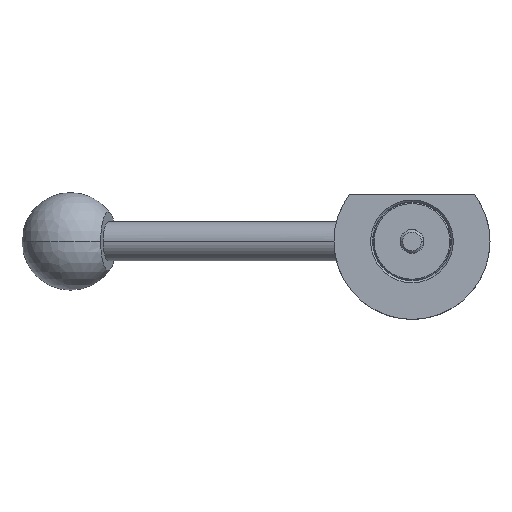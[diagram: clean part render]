
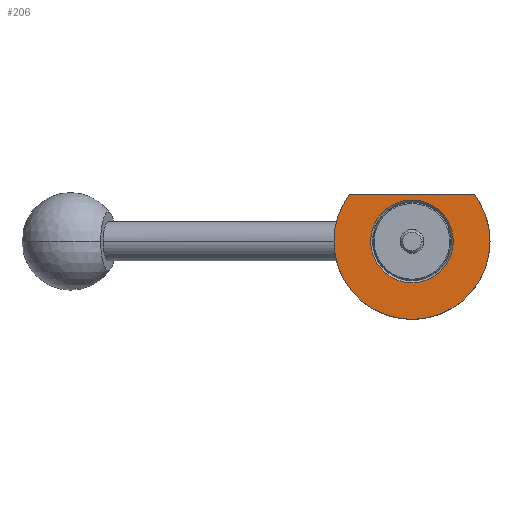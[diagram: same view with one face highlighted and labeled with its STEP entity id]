
A CAD part, front view. The second image highlights one B-rep face of the part: STEP entity #206.
In plain terms, the highlighted planar face has unit normal (0, -1, 0).
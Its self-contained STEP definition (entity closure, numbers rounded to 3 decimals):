
#59 = CARTESIAN_POINT ( 'NONE',  ( 16.001, -10., 11.999 ) ) ;
#67 = CARTESIAN_POINT ( 'NONE',  ( 0., -10., 0. ) ) ;
#111 = EDGE_CURVE ( 'NONE', #961, #461, #1121, .T. ) ;
#130 = FACE_OUTER_BOUND ( 'NONE', #767, .T. ) ;
#204 = DIRECTION ( 'NONE',  ( -1., 0., 0. ) ) ;
#206 = ADVANCED_FACE ( 'NONE', ( #1710, #130 ), #1209, .T. ) ;
#292 = VERTEX_POINT ( 'NONE', #1932 ) ;
#296 = VERTEX_POINT ( 'NONE', #339 ) ;
#339 = CARTESIAN_POINT ( 'NONE',  ( -20., -10., 0. ) ) ;
#344 = DIRECTION ( 'NONE',  ( -1., 0., 0. ) ) ;
#345 = CIRCLE ( 'NONE', #1715, 20. ) ;
#399 = ORIENTED_EDGE ( 'NONE', *, *, #1250, .F. ) ;
#403 = CARTESIAN_POINT ( 'NONE',  ( 0., -10., 0. ) ) ;
#422 = ORIENTED_EDGE ( 'NONE', *, *, #111, .F. ) ;
#461 = VERTEX_POINT ( 'NONE', #1326 ) ;
#505 = DIRECTION ( 'NONE',  ( 0., 1., 0. ) ) ;
#520 = DIRECTION ( 'NONE',  ( 0., 1., 0. ) ) ;
#564 = DIRECTION ( 'NONE',  ( -1., 0., 0. ) ) ;
#572 = CIRCLE ( 'NONE', #674, 10.6 ) ;
#674 = AXIS2_PLACEMENT_3D ( 'NONE', #1042, #505, #810 ) ;
#738 = EDGE_LOOP ( 'NONE', ( #2047, #1362 ) ) ;
#743 = AXIS2_PLACEMENT_3D ( 'NONE', #875, #2034, #1046 ) ;
#756 = DIRECTION ( 'NONE',  ( 0., -1., 0. ) ) ;
#767 = EDGE_LOOP ( 'NONE', ( #422, #855, #1941, #399 ) ) ;
#810 = DIRECTION ( 'NONE',  ( -1., 0., 0. ) ) ;
#822 = LINE ( 'NONE', #1369, #1716 ) ;
#855 = ORIENTED_EDGE ( 'NONE', *, *, #1402, .T. ) ;
#875 = CARTESIAN_POINT ( 'NONE',  ( 0., -10., 0. ) ) ;
#945 = CIRCLE ( 'NONE', #743, 10.6 ) ;
#961 = VERTEX_POINT ( 'NONE', #59 ) ;
#969 = EDGE_CURVE ( 'NONE', #296, #292, #345, .T. ) ;
#1041 = DIRECTION ( 'NONE',  ( 0., 1., 0. ) ) ;
#1042 = CARTESIAN_POINT ( 'NONE',  ( 0., -10., 0. ) ) ;
#1045 = VERTEX_POINT ( 'NONE', #1833 ) ;
#1046 = DIRECTION ( 'NONE',  ( -1., 0., 0. ) ) ;
#1079 = EDGE_CURVE ( 'NONE', #1868, #1045, #945, .T. ) ;
#1121 = CIRCLE ( 'NONE', #1718, 20. ) ;
#1164 = CARTESIAN_POINT ( 'NONE',  ( 0., -10., 0. ) ) ;
#1209 = PLANE ( 'NONE',  #1517 ) ;
#1250 = EDGE_CURVE ( 'NONE', #461, #296, #1817, .T. ) ;
#1326 = CARTESIAN_POINT ( 'NONE',  ( 20., -10., 0. ) ) ;
#1340 = DIRECTION ( 'NONE',  ( 0., 1., 0. ) ) ;
#1362 = ORIENTED_EDGE ( 'NONE', *, *, #1079, .T. ) ;
#1369 = CARTESIAN_POINT ( 'NONE',  ( -10.6, -10., 11.999 ) ) ;
#1374 = EDGE_CURVE ( 'NONE', #1045, #1868, #572, .T. ) ;
#1383 = AXIS2_PLACEMENT_3D ( 'NONE', #1164, #520, #344 ) ;
#1402 = EDGE_CURVE ( 'NONE', #961, #292, #822, .T. ) ;
#1517 = AXIS2_PLACEMENT_3D ( 'NONE', #1846, #756, #1563 ) ;
#1563 = DIRECTION ( 'NONE',  ( 1., 0., 0. ) ) ;
#1692 = CARTESIAN_POINT ( 'NONE',  ( -10.6, -10., 0. ) ) ;
#1710 = FACE_BOUND ( 'NONE', #738, .T. ) ;
#1715 = AXIS2_PLACEMENT_3D ( 'NONE', #67, #1340, #1982 ) ;
#1716 = VECTOR ( 'NONE', #564, 1000. ) ;
#1718 = AXIS2_PLACEMENT_3D ( 'NONE', #403, #1041, #204 ) ;
#1817 = CIRCLE ( 'NONE', #1383, 20. ) ;
#1833 = CARTESIAN_POINT ( 'NONE',  ( 10.6, -10., 0. ) ) ;
#1846 = CARTESIAN_POINT ( 'NONE',  ( -10.6, -10., 0. ) ) ;
#1868 = VERTEX_POINT ( 'NONE', #1692 ) ;
#1932 = CARTESIAN_POINT ( 'NONE',  ( -16.001, -10., 11.999 ) ) ;
#1941 = ORIENTED_EDGE ( 'NONE', *, *, #969, .F. ) ;
#1982 = DIRECTION ( 'NONE',  ( -1., 0., 0. ) ) ;
#2034 = DIRECTION ( 'NONE',  ( 0., 1., 0. ) ) ;
#2047 = ORIENTED_EDGE ( 'NONE', *, *, #1374, .T. ) ;
